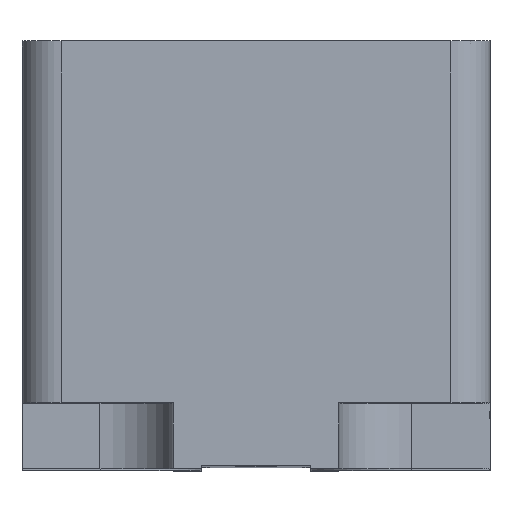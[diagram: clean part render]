
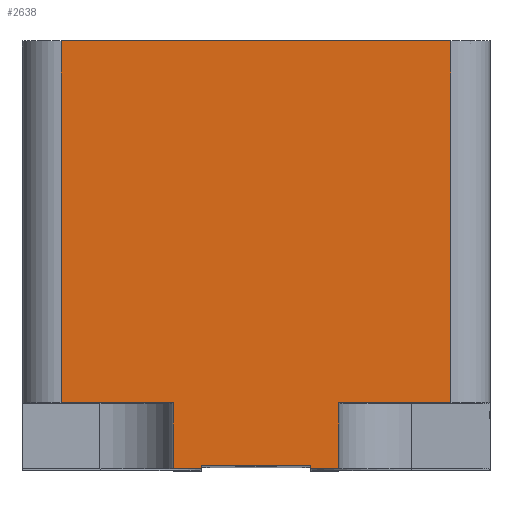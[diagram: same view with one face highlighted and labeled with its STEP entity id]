
A CAD part, top view. The second image highlights one B-rep face of the part: STEP entity #2638.
In plain terms, the highlighted planar face has unit normal (0, 0, 1).
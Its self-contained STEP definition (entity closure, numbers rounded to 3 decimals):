
#2136=CARTESIAN_POINT('',(3.5,0.2,50.0));
#2137=VERTEX_POINT('',#2136);
#2145=CARTESIAN_POINT('',(3.5,0.0,50.0));
#2146=VERTEX_POINT('',#2145);
#2153=CARTESIAN_POINT('',(3.5,0.2,50.0));
#2154=DIRECTION('',(0.0,-1.0,0.0));
#2155=VECTOR('',#2154,0.2);
#2156=LINE('',#2153,#2155);
#2157=EDGE_CURVE('',#2137,#2146,#2156,.T.);
#2167=CARTESIAN_POINT('',(-3.5,0.2,50.0));
#2168=VERTEX_POINT('',#2167);
#2177=CARTESIAN_POINT('',(-3.5,0.0,50.0));
#2178=VERTEX_POINT('',#2177);
#2179=CARTESIAN_POINT('',(-3.5,0.0,50.0));
#2180=DIRECTION('',(0.0,1.0,0.0));
#2181=VECTOR('',#2180,0.2);
#2182=LINE('',#2179,#2181);
#2183=EDGE_CURVE('',#2178,#2168,#2182,.T.);
#2512=CARTESIAN_POINT('',(-3.5,0.2,50.0));
#2513=DIRECTION('',(1.0,0.0,0.0));
#2514=VECTOR('',#2513,7.);
#2515=LINE('',#2512,#2514);
#2516=EDGE_CURVE('',#2168,#2137,#2515,.T.);
#2558=CARTESIAN_POINT('',(12.5,0.0,50.0));
#2559=DIRECTION('',(0.0,0.0,1.0));
#2560=DIRECTION('',(1.0,0.0,0.0));
#2561=AXIS2_PLACEMENT_3D('',#2558,#2559,#2560);
#2562=PLANE('',#2561);
#2563=ORIENTED_EDGE('',*,*,#2183,.T.);
#2564=ORIENTED_EDGE('',*,*,#2516,.T.);
#2565=ORIENTED_EDGE('',*,*,#2157,.T.);
#2566=CARTESIAN_POINT('',(5.3,0.0,50.0));
#2567=VERTEX_POINT('',#2566);
#2568=CARTESIAN_POINT('',(3.5,0.0,50.0));
#2569=DIRECTION('',(1.0,0.0,0.0));
#2570=VECTOR('',#2569,1.8);
#2571=LINE('',#2568,#2570);
#2572=EDGE_CURVE('',#2146,#2567,#2571,.T.);
#2573=ORIENTED_EDGE('',*,*,#2572,.T.);
#2574=CARTESIAN_POINT('',(5.3,4.2,50.0));
#2575=VERTEX_POINT('',#2574);
#2576=CARTESIAN_POINT('',(5.3,0.0,50.0));
#2577=DIRECTION('',(0.0,1.0,0.0));
#2578=VECTOR('',#2577,4.2);
#2579=LINE('',#2576,#2578);
#2580=EDGE_CURVE('',#2567,#2575,#2579,.T.);
#2581=ORIENTED_EDGE('',*,*,#2580,.T.);
#2582=CARTESIAN_POINT('',(12.5,4.2,50.0));
#2583=VERTEX_POINT('',#2582);
#2584=CARTESIAN_POINT('',(5.3,4.2,50.0));
#2585=DIRECTION('',(1.0,0.0,0.0));
#2586=VECTOR('',#2585,7.2);
#2587=LINE('',#2584,#2586);
#2588=EDGE_CURVE('',#2575,#2583,#2587,.T.);
#2589=ORIENTED_EDGE('',*,*,#2588,.T.);
#2590=CARTESIAN_POINT('',(12.5,27.4,50.0));
#2591=VERTEX_POINT('',#2590);
#2592=CARTESIAN_POINT('',(12.5,4.2,50.0));
#2593=DIRECTION('',(0.0,1.0,0.0));
#2594=VECTOR('',#2593,23.2);
#2595=LINE('',#2592,#2594);
#2596=EDGE_CURVE('',#2583,#2591,#2595,.T.);
#2597=ORIENTED_EDGE('',*,*,#2596,.T.);
#2598=CARTESIAN_POINT('',(-12.5,27.4,50.0));
#2599=VERTEX_POINT('',#2598);
#2600=CARTESIAN_POINT('',(12.5,27.4,50.0));
#2601=DIRECTION('',(-1.0,0.0,0.0));
#2602=VECTOR('',#2601,25.0);
#2603=LINE('',#2600,#2602);
#2604=EDGE_CURVE('',#2591,#2599,#2603,.T.);
#2605=ORIENTED_EDGE('',*,*,#2604,.T.);
#2606=CARTESIAN_POINT('',(-12.5,4.2,50.0));
#2607=VERTEX_POINT('',#2606);
#2608=CARTESIAN_POINT('',(-12.5,4.2,50.0));
#2609=DIRECTION('',(0.0,1.0,0.0));
#2610=VECTOR('',#2609,23.2);
#2611=LINE('',#2608,#2610);
#2612=EDGE_CURVE('',#2607,#2599,#2611,.T.);
#2613=ORIENTED_EDGE('',*,*,#2612,.F.);
#2614=CARTESIAN_POINT('',(-5.3,4.2,50.0));
#2615=VERTEX_POINT('',#2614);
#2616=CARTESIAN_POINT('',(-12.5,4.2,50.0));
#2617=DIRECTION('',(1.0,0.0,0.0));
#2618=VECTOR('',#2617,7.2);
#2619=LINE('',#2616,#2618);
#2620=EDGE_CURVE('',#2607,#2615,#2619,.T.);
#2621=ORIENTED_EDGE('',*,*,#2620,.T.);
#2622=CARTESIAN_POINT('',(-5.3,0.0,50.0));
#2623=VERTEX_POINT('',#2622);
#2624=CARTESIAN_POINT('',(-5.3,4.2,50.0));
#2625=DIRECTION('',(0.0,-1.0,0.0));
#2626=VECTOR('',#2625,4.2);
#2627=LINE('',#2624,#2626);
#2628=EDGE_CURVE('',#2615,#2623,#2627,.T.);
#2629=ORIENTED_EDGE('',*,*,#2628,.T.);
#2630=CARTESIAN_POINT('',(-5.3,0.0,50.0));
#2631=DIRECTION('',(1.0,0.0,0.0));
#2632=VECTOR('',#2631,1.8);
#2633=LINE('',#2630,#2632);
#2634=EDGE_CURVE('',#2623,#2178,#2633,.T.);
#2635=ORIENTED_EDGE('',*,*,#2634,.T.);
#2636=EDGE_LOOP('',(#2563,#2564,#2565,#2573,#2581,#2589,#2597,#2605,#2613,#2621,#2629,#2635));
#2637=FACE_OUTER_BOUND('',#2636,.T.);
#2638=ADVANCED_FACE('',(#2637),#2562,.T.);
